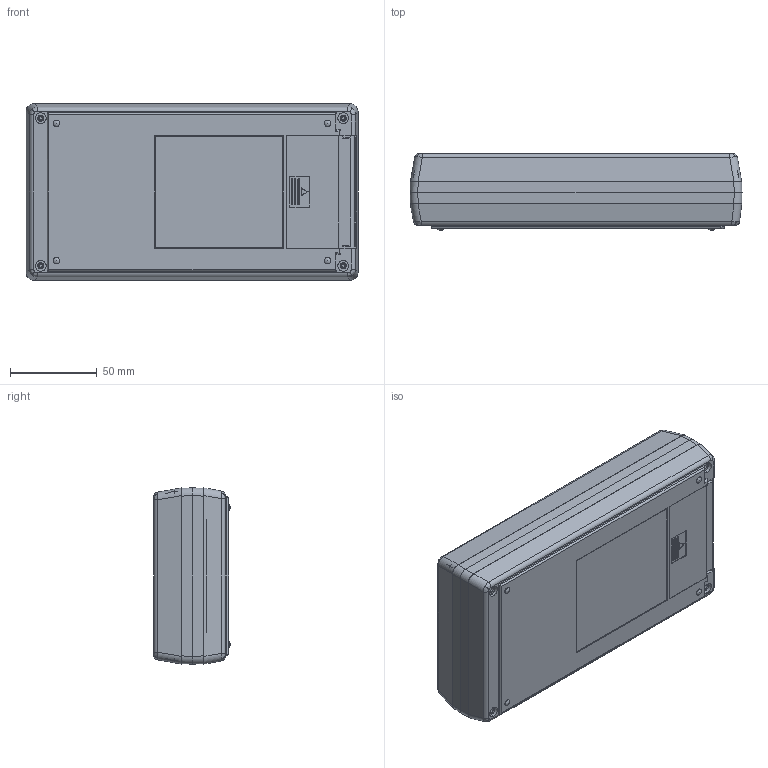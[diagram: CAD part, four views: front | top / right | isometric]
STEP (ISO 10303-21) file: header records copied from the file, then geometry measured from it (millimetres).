
FILE_DESCRIPTION (( 'STEP AP214' ), '1' );
FILE_NAME ('101-41-2A-E-R.STEP', '2019-12-01T01:16:33', ( 'Rudy' ), ( '' ), 'SwSTEP 2.0', 'SolidWorks 2014', '' );
FILE_SCHEMA (( 'AUTOMOTIVE_DESIGN' ));
Length unit declared in the file: millimetre
Products named in the file (5): 100-06 EXPANDER; 2AAdoor; 100-04-LCD Top; 100-01 BOT-2AA; 101-41-2A-E-R
Assembly tree (4 placements, depth 2):
  101-41-2A-E-R
    100-01 BOT-2AA
    100-04-LCD Top
    2AAdoor
    100-06 EXPANDER
Bounding box: 191 x 44 x 101.4 mm (x, y, z)
Volume: 136065.1 mm3; surface area: 142112.7 mm2
Topology: 4 solids, 4 shells, 936 faces, 2506 edges, 1576 vertices
Faces by surface type: plane 570, cylinder 264, bspline 44, cone 42, torus 12, sphere 4
Entity records: 30327 total; most frequent: CARTESIAN_POINT 7635, ORIENTED_EDGE 4932, DIRECTION 4345, EDGE_CURVE 2466, VECTOR 1757, LINE 1757, VERTEX_POINT 1568, AXIS2_PLACEMENT_3D 1294
